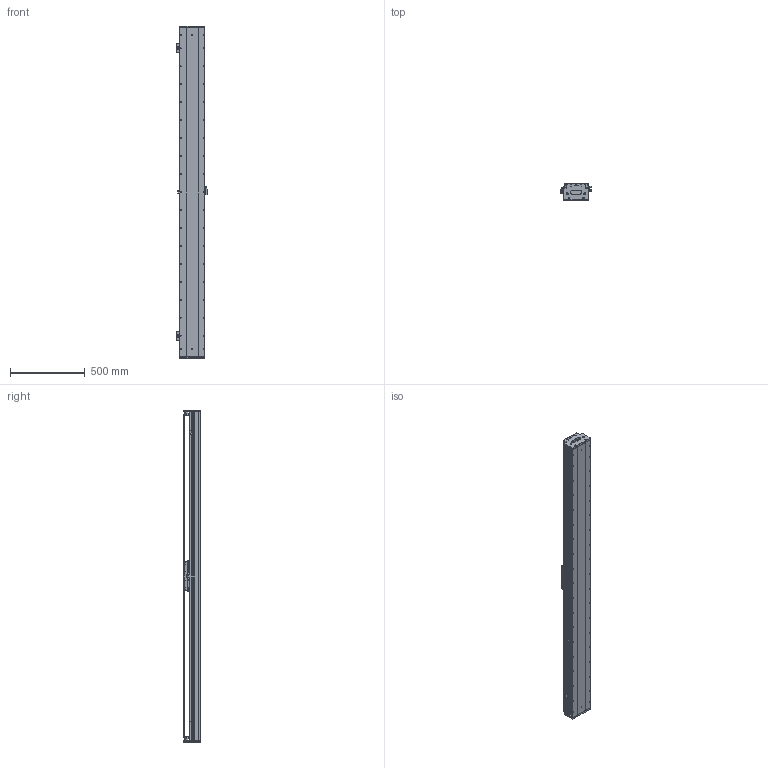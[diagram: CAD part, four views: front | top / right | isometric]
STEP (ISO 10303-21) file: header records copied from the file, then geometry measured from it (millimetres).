
FILE_DESCRIPTION (( 'STEP AP203' ), '1' );
FILE_NAME ('DKW168-C2-W090（T1920-L005-0.2）.STEP', '2021-09-10T01:14:08', ( '微软用户' ), ( '微软中国' ), 'SwSTEP 2.0', 'SolidWorks 2018', '' );
FILE_SCHEMA (( 'CONFIG_CONTROL_DESIGN' ));
Length unit declared in the file: millimetre
Products named in the file (22): 嫖萇羲壽蚾饜极; DKW168 单轴模组-拉钢带组件; MSA20絳寢; DKW-SG-GYP-H-00 嫖萇覜茼え; CKM01-W090-TRL280; 10279-0001-003-00 傷啣; 嫖萇羲壽蚾饜极A; DKW168-RU-DTJ-00 RU2黍杅芛盓殤; DKW168-HXJ-00 遣喳砎蝶; C2-W090_00; RUS嫖掑喜; 10392-0001-002-00 詩湍裔啣; DKW168-C2-W090（T1920-L005-0.2）; Ru2; 砎蝶猾沭; RUS嫖掑郪璃; 10392-0001-003-00 詩湍嶺輸; pm-y65; 10392-0001-004-00 詩湍揤輸; 10980-0001-003-00 嫖萇羲壽嘐隅釱; 10279-0001-006-00 嶺輸菜輸; 10392-0001-001-00 菁釱
Assembly tree (33 placements, depth 3):
  DKW168-C2-W090（T1920-L005-0.2）
    10392-0001-001-00 菁釱
    MSA20絳寢  x2
    DKW168 单轴模组-拉钢带组件
      10279-0001-003-00 傷啣  x2
      DKW168-HXJ-00 遣喳砎蝶  x4
      10392-0001-002-00 詩湍裔啣
      砎蝶猾沭  x2
      10392-0001-003-00 詩湍嶺輸  x2
      10392-0001-004-00 詩湍揤輸  x2
      10279-0001-006-00 嶺輸菜輸  x2
    CKM01-W090-TRL280
    DKW168-RU-DTJ-00 RU2黍杅芛盓殤
    RUS嫖掑郪璃
      RUS嫖掑喜
      Ru2
    嫖萇羲壽蚾饜极
      pm-y65
      10980-0001-003-00 嫖萇羲壽嘐隅釱
    DKW-SG-GYP-H-00 嫖萇覜茼え
    嫖萇羲壽蚾饜极A
      pm-y65  x2
      10980-0001-003-00 嫖萇羲壽嘐隅釱
    C2-W090_00
Bounding box: 202.3 x 109 x 2220 mm (x, y, z)
Volume: 14397092.7 mm3; surface area: 4269509.8 mm2
Topology: 48 solids, 97 shells, 4777 faces, 12515 edges, 8011 vertices
Faces by surface type: plane 2436, cylinder 1572, cone 458, bspline 279, torus 16, sphere 16
Entity records: 144719 total; most frequent: CARTESIAN_POINT 46045, ORIENTED_EDGE 20115, DIRECTION 19163, EDGE_CURVE 10098, VERTEX_POINT 6555, AXIS2_PLACEMENT_3D 6458, LINE 6247, VECTOR 6247
